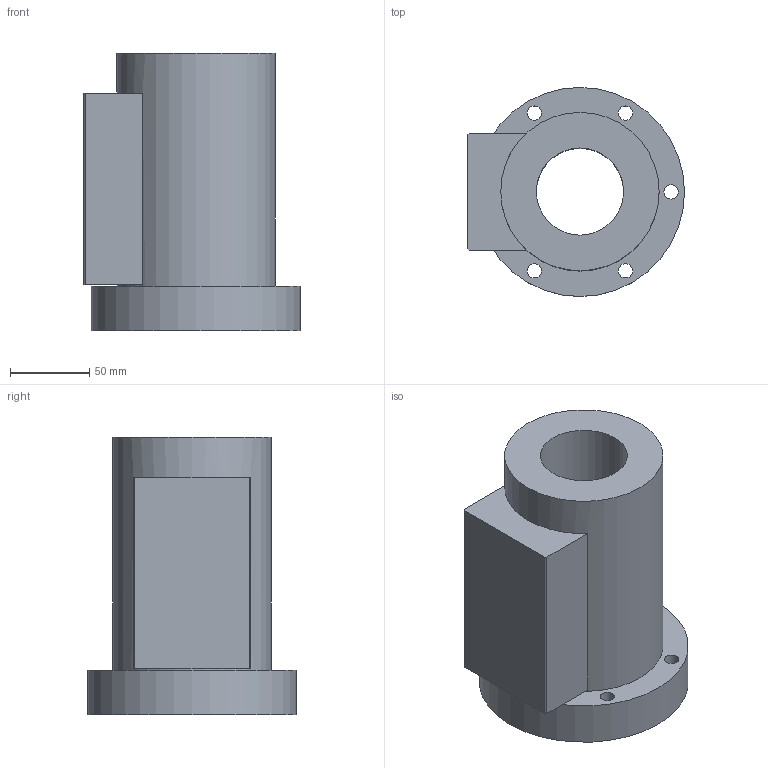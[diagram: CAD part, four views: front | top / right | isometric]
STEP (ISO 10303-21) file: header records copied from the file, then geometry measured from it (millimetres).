
FILE_DESCRIPTION(/* description */ (''),/* implementation_level */ '2;1');
FILE_NAME(/* name */ '55-20B2',/* time_stamp */ '2006-07-31T11:59:35+08:00',/* author */ (''),/* organization */ (''),/* preprocessor_version */ 'ST-DEVELOPER v9',/* originating_system */ 'UGS - NX 4.0',/* authorisation */ '');
FILE_SCHEMA (('CONFIG_CONTROL_DESIGN'));
Length unit declared in the file: millimetre
Products named in the file (1): 55-20B2
Bounding box: 137 x 132 x 175 mm (x, y, z)
Volume: 1342240 mm3; surface area: 126265.8 mm2
Topology: 1 solids, 1 shells, 28 faces, 61 edges, 42 vertices
Faces by surface type: plane 15, cylinder 13
Full cylindrical faces by diameter (mm): 9 x5, 14 x5, 55 x1, 100 x1, 132 x1
Entity records: 794 total; most frequent: DIRECTION 130, CARTESIAN_POINT 111, ORIENTED_EDGE 88, EDGE_LOOP 60, AXIS2_PLACEMENT_3D 57, FACE_BOUND 45, EDGE_CURVE 44, VERTEX_POINT 38
